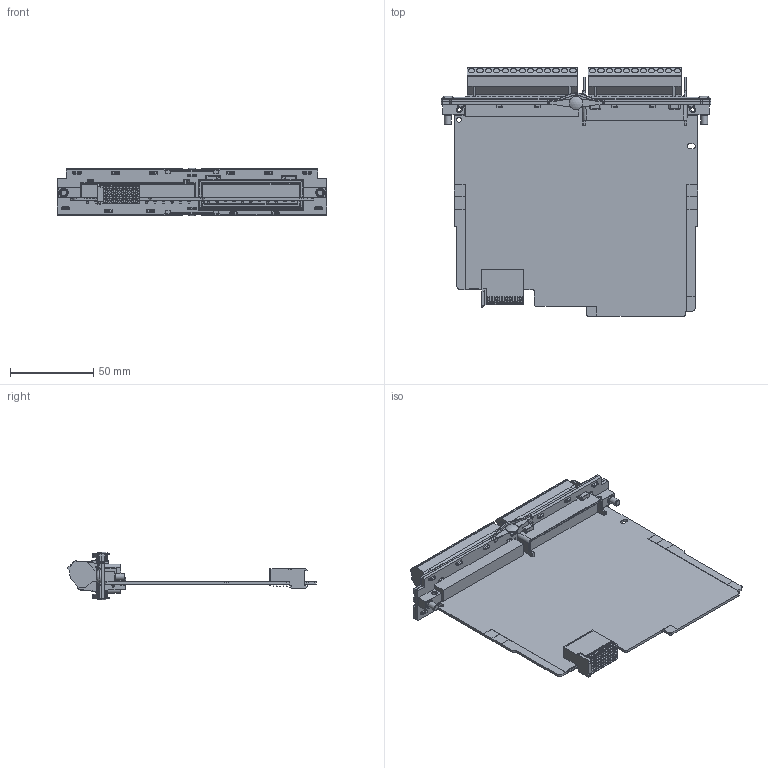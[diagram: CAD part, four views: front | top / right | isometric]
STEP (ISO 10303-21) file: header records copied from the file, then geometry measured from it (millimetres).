
FILE_DESCRIPTION(/* description */ (''),/* implementation_level */ '2;1');
FILE_NAME(/* name */ 'GAM3.1_3D CAD_20250228.stp',/* time_stamp */ '2025-02-28T09:44:05+01:00',/* author */ ('DSP'),/* organization */ (''),/* preprocessor_version */ 'ST-DEVELOPER v19.2',/* originating_system */ 'Autodesk Inventor 2023',/* authorisation */ '');
FILE_SCHEMA (('AUTOMOTIVE_DESIGN { 1 0 10303 214 3 1 1 }'));
Products named in the file (1): GAM3.1_3D CAD_SIMPL_20250228
Bounding box: 162 x 149.2 x 28.71 mm (x, y, z)
Volume: 85404.6 mm3; surface area: 68910.6 mm2
Topology: 1 solids, 1 shells, 3303 faces, 8332 edges, 5085 vertices
Faces by surface type: plane 1885, cylinder 838, bspline 296, cone 140, torus 113, sphere 31
Full cylindrical faces by diameter (mm): 0.8 x6, 1.6 x24, 2.459 x2, 2.5 x2, 3 x2, 3.05 x1, 3.242 x2, 4 x26, 4.4 x2, 5.5 x2, 8 x2
Entity records: 111420 total; most frequent: CARTESIAN_POINT 29862, ORIENTED_EDGE 16448, DIRECTION 15811, EDGE_CURVE 8224, LINE 5543, VECTOR 5543, AXIS2_PLACEMENT_3D 5134, VERTEX_POINT 5085
